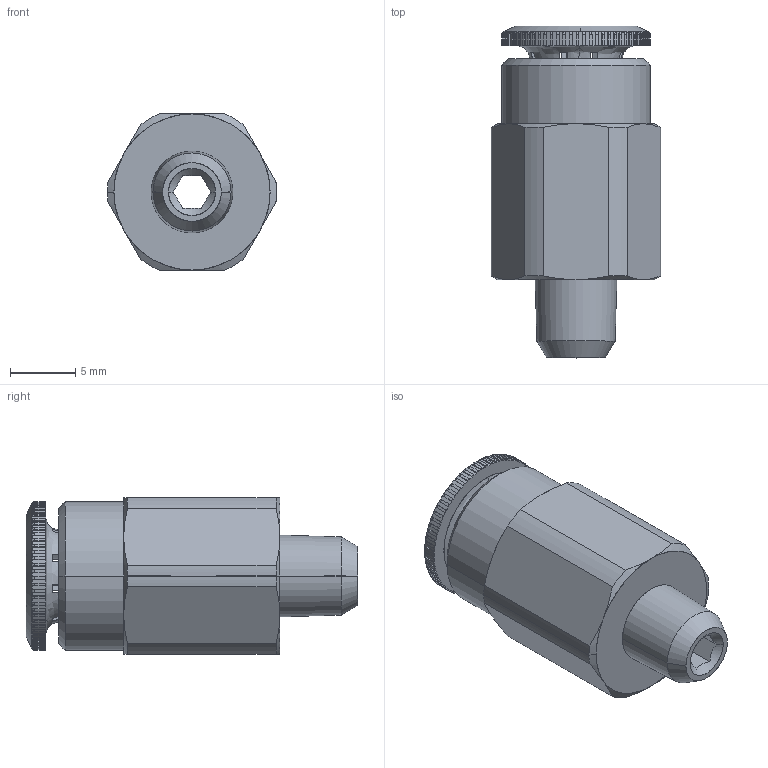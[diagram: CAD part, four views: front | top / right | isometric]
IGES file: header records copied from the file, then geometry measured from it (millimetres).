
Start section: SolidWorks IGES file using analytic representation for surfaces
Global section: file name: K:\Disegni Esecutivi\SERIE 58000\ASSIEMI\58000\58000_3D_2020\5800000011A.IGS; native system: SolidWorks 2016; preprocessor: SolidWorks 2016; author: cad01; date: 200219.102610; units: millimetre
Bounding box: 13 x 25.5 x 12 mm (x, y, z)
Surface area: 1656.3 mm2 (no closed solid volume)
Topology: 0 solids, 0 shells, 434 faces, 3323 edges, 3323 vertices
Faces by surface type: bspline 267, revolution 167
